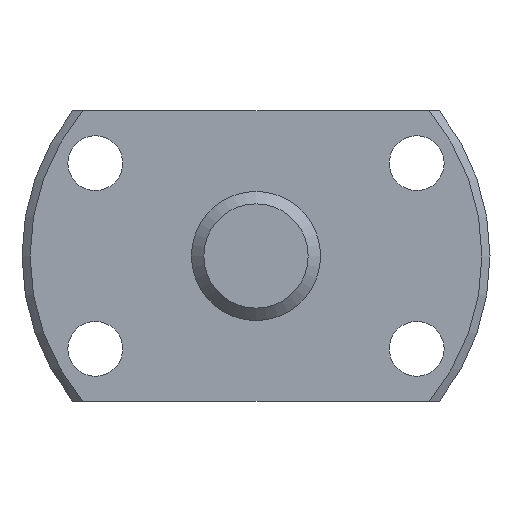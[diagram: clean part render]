
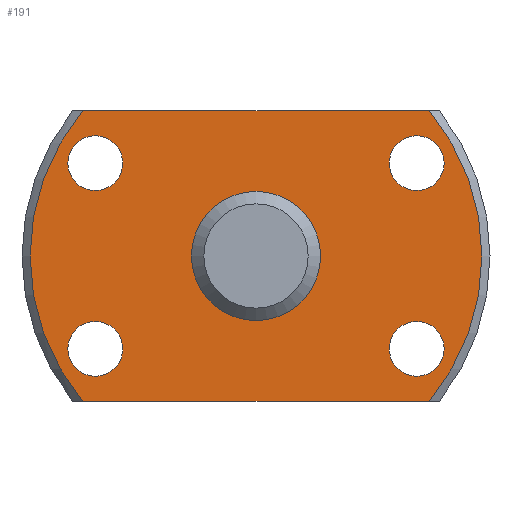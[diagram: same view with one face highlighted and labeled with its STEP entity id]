
A CAD part, left-side view. The second image highlights one B-rep face of the part: STEP entity #191.
In plain terms, the highlighted planar face has unit normal (-1, 0, 0).
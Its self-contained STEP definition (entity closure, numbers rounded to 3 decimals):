
#191 = ADVANCED_FACE( '', ( #271, #272, #273, #274, #275, #276 ), #277, .T. );
#271 = FACE_BOUND( '', #393, .T. );
#272 = FACE_BOUND( '', #394, .T. );
#273 = FACE_BOUND( '', #395, .T. );
#274 = FACE_BOUND( '', #396, .T. );
#275 = FACE_BOUND( '', #397, .T. );
#276 = FACE_OUTER_BOUND( '', #398, .T. );
#277 = PLANE( '', #399 );
#393 = EDGE_LOOP( '', ( #619 ) );
#394 = EDGE_LOOP( '', ( #620 ) );
#395 = EDGE_LOOP( '', ( #621 ) );
#396 = EDGE_LOOP( '', ( #622 ) );
#397 = EDGE_LOOP( '', ( #623 ) );
#398 = EDGE_LOOP( '', ( #624, #625, #626, #627 ) );
#399 = AXIS2_PLACEMENT_3D( '', #628, #629, #630 );
#619 = ORIENTED_EDGE( '', *, *, #854, .T. );
#620 = ORIENTED_EDGE( '', *, *, #856, .T. );
#621 = ORIENTED_EDGE( '', *, *, #857, .T. );
#622 = ORIENTED_EDGE( '', *, *, #858, .T. );
#623 = ORIENTED_EDGE( '', *, *, #859, .T. );
#624 = ORIENTED_EDGE( '', *, *, #848, .F. );
#625 = ORIENTED_EDGE( '', *, *, #860, .F. );
#626 = ORIENTED_EDGE( '', *, *, #819, .F. );
#627 = ORIENTED_EDGE( '', *, *, #861, .F. );
#628 = CARTESIAN_POINT( '', ( 0., 14., 0. ) );
#629 = DIRECTION( '', ( -1., 0., 0. ) );
#630 = DIRECTION( '', ( 0., 0., 1. ) );
#819 = EDGE_CURVE( '', #933, #935, #936, .T. );
#848 = EDGE_CURVE( '', #987, #989, #990, .T. );
#854 = EDGE_CURVE( '', #1000, #1000, #1001, .T. );
#856 = EDGE_CURVE( '', #1004, #1004, #1005, .T. );
#857 = EDGE_CURVE( '', #1006, #1006, #1007, .T. );
#858 = EDGE_CURVE( '', #1008, #1008, #1009, .T. );
#859 = EDGE_CURVE( '', #1010, #1010, #1011, .T. );
#860 = EDGE_CURVE( '', #935, #987, #1012, .T. );
#861 = EDGE_CURVE( '', #989, #933, #1013, .T. );
#933 = VERTEX_POINT( '', #1145 );
#935 = VERTEX_POINT( '', #1150 );
#936 = LINE( '', #1151, #1152 );
#987 = VERTEX_POINT( '', #1274 );
#989 = VERTEX_POINT( '', #1279 );
#990 = LINE( '', #1280, #1281 );
#1000 = VERTEX_POINT( '', #1299 );
#1001 = CIRCLE( '', #1300, 4. );
#1004 = VERTEX_POINT( '', #1303 );
#1005 = CIRCLE( '', #1304, 1.7 );
#1006 = VERTEX_POINT( '', #1305 );
#1007 = CIRCLE( '', #1306, 1.7 );
#1008 = VERTEX_POINT( '', #1307 );
#1009 = CIRCLE( '', #1308, 1.7 );
#1010 = VERTEX_POINT( '', #1309 );
#1011 = CIRCLE( '', #1310, 1.7 );
#1012 = CIRCLE( '', #1311, 14. );
#1013 = CIRCLE( '', #1312, 14. );
#1145 = CARTESIAN_POINT( '', ( 0., 10.724, 9. ) );
#1150 = CARTESIAN_POINT( '', ( 0., -10.724, 9. ) );
#1151 = CARTESIAN_POINT( '', ( 0., 14.5, 9. ) );
#1152 = VECTOR( '', #1404, 1000. );
#1274 = CARTESIAN_POINT( '', ( 0., -10.724, -9. ) );
#1279 = CARTESIAN_POINT( '', ( 0., 10.724, -9. ) );
#1280 = CARTESIAN_POINT( '', ( 0., -14.5, -9. ) );
#1281 = VECTOR( '', #1440, 1000. );
#1299 = CARTESIAN_POINT( '', ( 0., 0., -4. ) );
#1300 = AXIS2_PLACEMENT_3D( '', #1446, #1447, #1448 );
#1303 = CARTESIAN_POINT( '', ( 0., -9.959, 4.05 ) );
#1304 = AXIS2_PLACEMENT_3D( '', #1452, #1453, #1454 );
#1305 = CARTESIAN_POINT( '', ( 0., 9.959, -7.45 ) );
#1306 = AXIS2_PLACEMENT_3D( '', #1455, #1456, #1457 );
#1307 = CARTESIAN_POINT( '', ( 0., -9.959, -7.45 ) );
#1308 = AXIS2_PLACEMENT_3D( '', #1458, #1459, #1460 );
#1309 = CARTESIAN_POINT( '', ( 0., 9.959, 4.05 ) );
#1310 = AXIS2_PLACEMENT_3D( '', #1461, #1462, #1463 );
#1311 = AXIS2_PLACEMENT_3D( '', #1464, #1465, #1466 );
#1312 = AXIS2_PLACEMENT_3D( '', #1467, #1468, #1469 );
#1404 = DIRECTION( '', ( 0., -1., 0. ) );
#1440 = DIRECTION( '', ( 0., 1., 0. ) );
#1446 = CARTESIAN_POINT( '', ( 0., 0., 0. ) );
#1447 = DIRECTION( '', ( 1., 0., 0. ) );
#1448 = DIRECTION( '', ( 0., 0., -1. ) );
#1452 = CARTESIAN_POINT( '', ( 0., -9.959, 5.75 ) );
#1453 = DIRECTION( '', ( 1., 0., 0. ) );
#1454 = DIRECTION( '', ( 0., 0., -1. ) );
#1455 = CARTESIAN_POINT( '', ( 0., 9.959, -5.75 ) );
#1456 = DIRECTION( '', ( 1., 0., 0. ) );
#1457 = DIRECTION( '', ( 0., 0., -1. ) );
#1458 = CARTESIAN_POINT( '', ( 0., -9.959, -5.75 ) );
#1459 = DIRECTION( '', ( 1., 0., 0. ) );
#1460 = DIRECTION( '', ( 0., 0., -1. ) );
#1461 = CARTESIAN_POINT( '', ( 0., 9.959, 5.75 ) );
#1462 = DIRECTION( '', ( 1., 0., 0. ) );
#1463 = DIRECTION( '', ( 0., 0., -1. ) );
#1464 = CARTESIAN_POINT( '', ( 0., 0., 0. ) );
#1465 = DIRECTION( '', ( 1., 0., 0. ) );
#1466 = DIRECTION( '', ( 0., 0., -1. ) );
#1467 = CARTESIAN_POINT( '', ( 0., 0., 0. ) );
#1468 = DIRECTION( '', ( 1., 0., 0. ) );
#1469 = DIRECTION( '', ( 0., 0., -1. ) );
